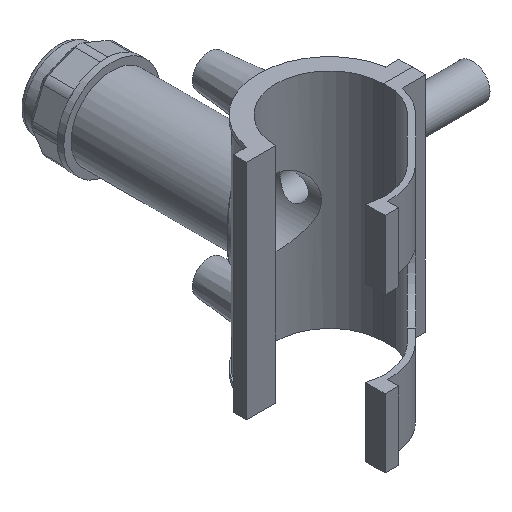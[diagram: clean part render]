
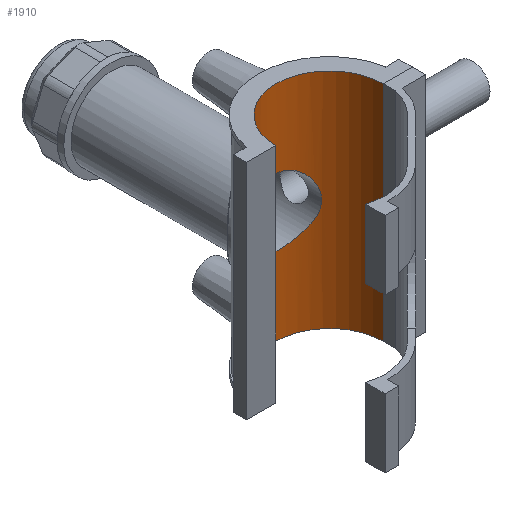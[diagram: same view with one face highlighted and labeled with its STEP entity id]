
A CAD part, isometric view. The second image highlights one B-rep face of the part: STEP entity #1910.
In plain terms, the highlighted cylindrical face has radius 24.05 mm (diameter 48.1 mm), a partial arc.
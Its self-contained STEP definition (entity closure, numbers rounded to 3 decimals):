
#114=FACE_BOUND('',#312,.T.);
#195=FACE_OUTER_BOUND('',#311,.T.);
#311=EDGE_LOOP('',(#1638,#1639,#1640,#1641));
#312=EDGE_LOOP('',(#1642,#1643));
#342=B_SPLINE_CURVE_WITH_KNOTS('',3,(#2735,#2736,#2737,#2738,#2739,#2740,
#2741,#2742,#2743,#2744,#2745,#2746,#2747,#2748,#2749,#2750,#2751,#2752,
#2753,#2754,#2755,#2756,#2757,#2758,#2759,#2760,#2761,#2762,#2763,#2764,
#2765,#2766,#2767,#2768,#2769,#2770,#2771,#2772),.UNSPECIFIED.,.F.,.F.,
(4,2,2,2,2,2,2,2,2,2,2,2,2,2,2,2,2,2,4),(0.,0.297,0.594,
1.187,1.776,2.07,2.365,2.659,
2.953,3.542,4.136,4.433,4.729,
5.026,5.323,5.917,6.505,6.8,
7.094),.UNSPECIFIED.);
#343=B_SPLINE_CURVE_WITH_KNOTS('',3,(#2773,#2774,#2775,#2776,#2777,#2778,
#2779,#2780,#2781,#2782,#2783,#2784,#2785,#2786),.UNSPECIFIED.,.F.,.F.,
(4,2,2,2,2,2,4),(7.094,7.389,7.683,8.272,
8.865,9.162,9.459),.UNSPECIFIED.);
#464=LINE('',#3659,#620);
#465=LINE('',#3663,#621);
#620=VECTOR('',#2567,10.);
#621=VECTOR('',#2570,10.);
#750=CIRCLE('',#2115,24.05);
#751=CIRCLE('',#2117,24.05);
#770=VERTEX_POINT('',#2732);
#771=VERTEX_POINT('',#2734);
#903=VERTEX_POINT('',#3653);
#905=VERTEX_POINT('',#3657);
#906=VERTEX_POINT('',#3661);
#907=VERTEX_POINT('',#3662);
#956=EDGE_CURVE('',#771,#770,#342,.T.);
#957=EDGE_CURVE('',#770,#771,#343,.T.);
#1158=EDGE_CURVE('',#903,#905,#464,.T.);
#1159=EDGE_CURVE('',#906,#907,#465,.T.);
#1165=EDGE_CURVE('',#903,#907,#750,.T.);
#1166=EDGE_CURVE('',#906,#905,#751,.T.);
#1638=ORIENTED_EDGE('',*,*,#1159,.T.);
#1639=ORIENTED_EDGE('',*,*,#1165,.F.);
#1640=ORIENTED_EDGE('',*,*,#1158,.T.);
#1641=ORIENTED_EDGE('',*,*,#1166,.F.);
#1642=ORIENTED_EDGE('',*,*,#956,.T.);
#1643=ORIENTED_EDGE('',*,*,#957,.T.);
#1822=CYLINDRICAL_SURFACE('',#2118,24.05);
#1910=ADVANCED_FACE('',(#195,#114),#1822,.F.);
#2115=AXIS2_PLACEMENT_3D('',#3672,#2578,#2579);
#2117=AXIS2_PLACEMENT_3D('',#3674,#2582,#2583);
#2118=AXIS2_PLACEMENT_3D('',#3677,#2586,#2587);
#2567=DIRECTION('',(0.,0.,-1.));
#2570=DIRECTION('',(0.,0.,1.));
#2578=DIRECTION('center_axis',(0.,0.,-1.));
#2579=DIRECTION('ref_axis',(-1.,0.,0.));
#2582=DIRECTION('center_axis',(0.,0.,1.));
#2583=DIRECTION('ref_axis',(-1.,0.,0.));
#2586=DIRECTION('center_axis',(0.,0.,1.));
#2587=DIRECTION('ref_axis',(-1.,0.,0.));
#2732=CARTESIAN_POINT('',(0.,24.05,-15.152));
#2734=CARTESIAN_POINT('',(-15.152,18.677,0.));
#2735=CARTESIAN_POINT('Ctrl Pts',(-15.152,18.677,0.));
#2736=CARTESIAN_POINT('Ctrl Pts',(-15.152,18.677,0.989));
#2737=CARTESIAN_POINT('Ctrl Pts',(-15.053,18.758,1.998));
#2738=CARTESIAN_POINT('Ctrl Pts',(-14.655,19.071,3.979));
#2739=CARTESIAN_POINT('Ctrl Pts',(-14.355,19.302,4.952));
#2740=CARTESIAN_POINT('Ctrl Pts',(-13.185,20.136,7.73));
#2741=CARTESIAN_POINT('Ctrl Pts',(-12.034,20.875,9.394));
#2742=CARTESIAN_POINT('Ctrl Pts',(-9.405,22.183,12.023));
#2743=CARTESIAN_POINT('Ctrl Pts',(-7.738,22.852,13.182));
#2744=CARTESIAN_POINT('Ctrl Pts',(-4.949,23.555,14.356));
#2745=CARTESIAN_POINT('Ctrl Pts',(-3.971,23.741,14.657));
#2746=CARTESIAN_POINT('Ctrl Pts',(-1.987,23.989,15.055));
#2747=CARTESIAN_POINT('Ctrl Pts',(-0.981,24.05,15.152));
#2748=CARTESIAN_POINT('Ctrl Pts',(0.981,24.05,15.152));
#2749=CARTESIAN_POINT('Ctrl Pts',(1.987,23.989,15.055));
#2750=CARTESIAN_POINT('Ctrl Pts',(3.971,23.741,14.657));
#2751=CARTESIAN_POINT('Ctrl Pts',(4.949,23.555,14.356));
#2752=CARTESIAN_POINT('Ctrl Pts',(7.738,22.852,13.182));
#2753=CARTESIAN_POINT('Ctrl Pts',(9.405,22.183,12.023));
#2754=CARTESIAN_POINT('Ctrl Pts',(12.034,20.875,9.394));
#2755=CARTESIAN_POINT('Ctrl Pts',(13.185,20.136,7.73));
#2756=CARTESIAN_POINT('Ctrl Pts',(14.355,19.302,4.952));
#2757=CARTESIAN_POINT('Ctrl Pts',(14.655,19.071,3.979));
#2758=CARTESIAN_POINT('Ctrl Pts',(15.053,18.758,1.998));
#2759=CARTESIAN_POINT('Ctrl Pts',(15.152,18.677,0.989));
#2760=CARTESIAN_POINT('Ctrl Pts',(15.152,18.677,-0.989));
#2761=CARTESIAN_POINT('Ctrl Pts',(15.053,18.758,-1.998));
#2762=CARTESIAN_POINT('Ctrl Pts',(14.655,19.071,-3.979));
#2763=CARTESIAN_POINT('Ctrl Pts',(14.355,19.302,-4.952));
#2764=CARTESIAN_POINT('Ctrl Pts',(13.185,20.136,-7.73));
#2765=CARTESIAN_POINT('Ctrl Pts',(12.034,20.875,-9.394));
#2766=CARTESIAN_POINT('Ctrl Pts',(9.405,22.183,-12.023));
#2767=CARTESIAN_POINT('Ctrl Pts',(7.738,22.852,-13.182));
#2768=CARTESIAN_POINT('Ctrl Pts',(4.949,23.555,-14.356));
#2769=CARTESIAN_POINT('Ctrl Pts',(3.971,23.741,-14.657));
#2770=CARTESIAN_POINT('Ctrl Pts',(1.987,23.989,-15.055));
#2771=CARTESIAN_POINT('Ctrl Pts',(0.981,24.05,-15.152));
#2772=CARTESIAN_POINT('Ctrl Pts',(0.,24.05,-15.152));
#2773=CARTESIAN_POINT('Ctrl Pts',(0.,24.05,-15.152));
#2774=CARTESIAN_POINT('Ctrl Pts',(-0.981,24.05,-15.152));
#2775=CARTESIAN_POINT('Ctrl Pts',(-1.987,23.989,-15.055));
#2776=CARTESIAN_POINT('Ctrl Pts',(-3.971,23.741,-14.657));
#2777=CARTESIAN_POINT('Ctrl Pts',(-4.949,23.555,-14.356));
#2778=CARTESIAN_POINT('Ctrl Pts',(-7.738,22.852,-13.182));
#2779=CARTESIAN_POINT('Ctrl Pts',(-9.405,22.183,-12.023));
#2780=CARTESIAN_POINT('Ctrl Pts',(-12.034,20.875,-9.394));
#2781=CARTESIAN_POINT('Ctrl Pts',(-13.185,20.136,-7.73));
#2782=CARTESIAN_POINT('Ctrl Pts',(-14.355,19.302,-4.952));
#2783=CARTESIAN_POINT('Ctrl Pts',(-14.655,19.071,-3.979));
#2784=CARTESIAN_POINT('Ctrl Pts',(-15.053,18.758,-1.998));
#2785=CARTESIAN_POINT('Ctrl Pts',(-15.152,18.677,-0.989));
#2786=CARTESIAN_POINT('Ctrl Pts',(-15.152,18.677,0.));
#3653=CARTESIAN_POINT('',(-24.05,0.05,50.038));
#3657=CARTESIAN_POINT('',(-24.05,0.05,-50.038));
#3659=CARTESIAN_POINT('',(-24.05,0.05,0.));
#3661=CARTESIAN_POINT('',(24.05,0.05,-50.038));
#3662=CARTESIAN_POINT('',(24.05,0.05,50.038));
#3663=CARTESIAN_POINT('',(24.05,0.05,0.));
#3672=CARTESIAN_POINT('Origin',(0.,0.,50.038));
#3674=CARTESIAN_POINT('Origin',(0.,0.,-50.038));
#3677=CARTESIAN_POINT('Origin',(0.,0.,0.));
